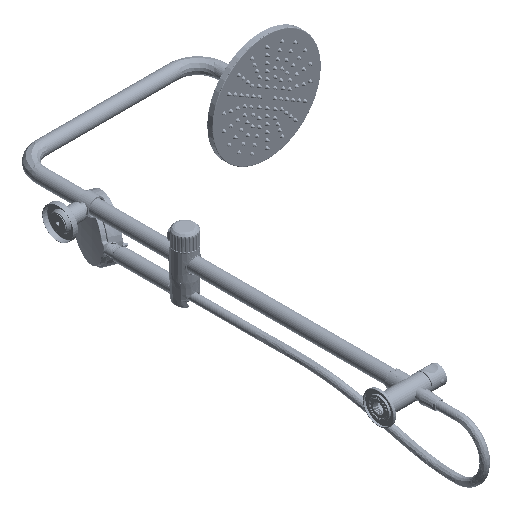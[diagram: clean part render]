
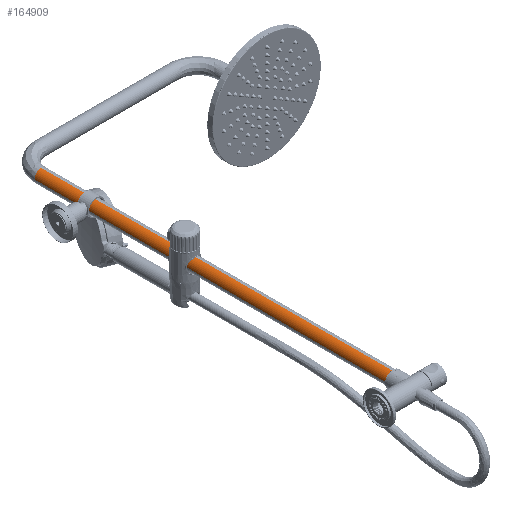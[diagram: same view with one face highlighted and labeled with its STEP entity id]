
A CAD part, isometric view. The second image highlights one B-rep face of the part: STEP entity #164909.
In plain terms, the highlighted cylindrical face has radius 12.5 mm (diameter 25 mm), a partial arc.
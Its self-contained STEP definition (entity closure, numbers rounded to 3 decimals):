
#2508 = ORIENTED_EDGE ( 'NONE', *, *, #216806, .T. ) ;
#8254 = CYLINDRICAL_SURFACE ( 'NONE', #166141, 12.5 ) ;
#17585 = DIRECTION ( 'NONE',  ( 0., -1., 0. ) ) ;
#25538 = EDGE_LOOP ( 'NONE', ( #2508, #75982, #203471, #215491 ) ) ;
#31114 = CARTESIAN_POINT ( 'NONE',  ( 0., 0., 0. ) ) ;
#46889 = DIRECTION ( 'NONE',  ( 0., 1., 0. ) ) ;
#49132 = CARTESIAN_POINT ( 'NONE',  ( 0., 0., 12.5 ) ) ;
#55685 = VERTEX_POINT ( 'NONE', #93195 ) ;
#73923 = CARTESIAN_POINT ( 'NONE',  ( 0., 0., 0. ) ) ;
#74042 = CARTESIAN_POINT ( 'NONE',  ( 0., 658., 0. ) ) ;
#75982 = ORIENTED_EDGE ( 'NONE', *, *, #278348, .T. ) ;
#81861 = LINE ( 'NONE', #123269, #115605 ) ;
#91606 = CIRCLE ( 'NONE', #200934, 12.5 ) ;
#93195 = CARTESIAN_POINT ( 'NONE',  ( 0., 0., 12.5 ) ) ;
#93209 = VERTEX_POINT ( 'NONE', #209688 ) ;
#115605 = VECTOR ( 'NONE', #17585, 1000. ) ;
#123269 = CARTESIAN_POINT ( 'NONE',  ( -12.5, 0., 0. ) ) ;
#139585 = DIRECTION ( 'NONE',  ( 0., 0., 1. ) ) ;
#164909 = ADVANCED_FACE ( 'NONE', ( #222350 ), #8254, .T. ) ;
#166141 = AXIS2_PLACEMENT_3D ( 'NONE', #31114, #46889, #139585 ) ;
#166612 = VERTEX_POINT ( 'NONE', #270597 ) ;
#174419 = AXIS2_PLACEMENT_3D ( 'NONE', #74042, #230919, #225295 ) ;
#185651 = EDGE_CURVE ( 'NONE', #166612, #93209, #229179, .T. ) ;
#186047 = LINE ( 'NONE', #49132, #208604 ) ;
#186704 = VERTEX_POINT ( 'NONE', #263200 ) ;
#200934 = AXIS2_PLACEMENT_3D ( 'NONE', #73923, #266664, #200939 ) ;
#200939 = DIRECTION ( 'NONE',  ( 0., 0., 1. ) ) ;
#203471 = ORIENTED_EDGE ( 'NONE', *, *, #185651, .T. ) ;
#208604 = VECTOR ( 'NONE', #226033, 1000. ) ;
#209688 = CARTESIAN_POINT ( 'NONE',  ( -12.5, 658., 0. ) ) ;
#215491 = ORIENTED_EDGE ( 'NONE', *, *, #253859, .T. ) ;
#216806 = EDGE_CURVE ( 'NONE', #186704, #55685, #91606, .T. ) ;
#222350 = FACE_OUTER_BOUND ( 'NONE', #25538, .T. ) ;
#225295 = DIRECTION ( 'NONE',  ( 0., 0., 1. ) ) ;
#226033 = DIRECTION ( 'NONE',  ( 0., 1., 0. ) ) ;
#229179 = CIRCLE ( 'NONE', #174419, 12.5 ) ;
#230919 = DIRECTION ( 'NONE',  ( 0., -1., 0. ) ) ;
#253859 = EDGE_CURVE ( 'NONE', #93209, #186704, #81861, .T. ) ;
#263200 = CARTESIAN_POINT ( 'NONE',  ( -12.5, 0., 0. ) ) ;
#266664 = DIRECTION ( 'NONE',  ( 0., 1., 0. ) ) ;
#270597 = CARTESIAN_POINT ( 'NONE',  ( 0., 658., 12.5 ) ) ;
#278348 = EDGE_CURVE ( 'NONE', #55685, #166612, #186047, .T. ) ;
